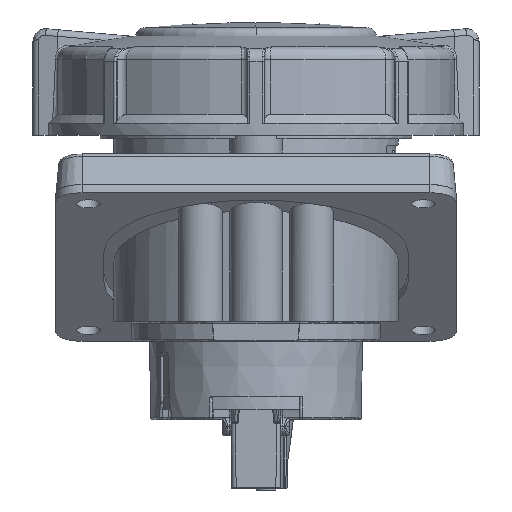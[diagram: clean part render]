
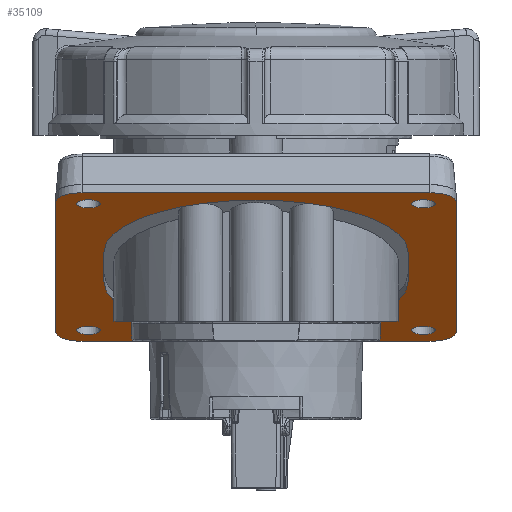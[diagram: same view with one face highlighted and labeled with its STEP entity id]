
A CAD part, front view. The second image highlights one B-rep face of the part: STEP entity #35109.
In plain terms, the highlighted planar face has unit normal (0, -0.342, -0.94).
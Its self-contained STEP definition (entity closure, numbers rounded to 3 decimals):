
#502=CARTESIAN_POINT('',(-40.,38.266,-2.556));
#503=DIRECTION('',(0.,0.342,0.94));
#504=DIRECTION('',(0.,0.94,-0.342));
#505=AXIS2_PLACEMENT_3D('',#502,#503,#504);
#507=DIRECTION('',(0.,-0.94,0.342));
#508=VECTOR('',#507,87.9);
#509=CARTESIAN_POINT('',(-46.,38.266,-2.556));
#510=LINE('7720',#509,#508);
#511=CARTESIAN_POINT('',(-40.,-44.333,27.507));
#512=DIRECTION('',(0.,0.342,0.94));
#513=DIRECTION('',(-1.,0.,0.));
#514=AXIS2_PLACEMENT_3D('',#511,#512,#513);
#516=DIRECTION('',(1.,0.,0.));
#517=VECTOR('',#516,80.);
#518=CARTESIAN_POINT('',(-40.,-49.971,29.56));
#519=LINE('7722',#518,#517);
#520=CARTESIAN_POINT('',(40.,-44.333,27.507));
#521=DIRECTION('',(0.,0.342,0.94));
#522=DIRECTION('',(0.,-0.94,0.342));
#523=AXIS2_PLACEMENT_3D('',#520,#521,#522);
#525=DIRECTION('',(0.,0.94,-0.342));
#526=VECTOR('',#525,87.9);
#527=CARTESIAN_POINT('',(46.,-44.333,27.507));
#528=LINE('7724',#527,#526);
#529=CARTESIAN_POINT('',(40.,38.266,-2.556));
#530=DIRECTION('',(0.,0.342,0.94));
#531=DIRECTION('',(1.,0.,0.));
#532=AXIS2_PLACEMENT_3D('',#529,#530,#531);
#534=DIRECTION('',(-1.,0.,0.));
#535=VECTOR('',#534,80.);
#536=CARTESIAN_POINT('',(40.,43.904,-4.608));
#537=LINE('7726',#536,#535);
#538=CARTESIAN_POINT('',(-38.5,36.904,-2.06));
#539=DIRECTION('',(0.,-0.342,-0.94));
#540=DIRECTION('',(1.,0.,0.));
#541=AXIS2_PLACEMENT_3D('',#538,#539,#540);
#543=CARTESIAN_POINT('',(-38.5,36.904,-2.06));
#544=DIRECTION('',(0.,-0.342,-0.94));
#545=DIRECTION('',(-1.,0.,0.));
#546=AXIS2_PLACEMENT_3D('',#543,#544,#545);
#548=CARTESIAN_POINT('',(38.5,36.904,-2.06));
#549=DIRECTION('',(0.,-0.342,-0.94));
#550=DIRECTION('',(1.,0.,0.));
#551=AXIS2_PLACEMENT_3D('',#548,#549,#550);
#553=CARTESIAN_POINT('',(38.5,36.904,-2.06));
#554=DIRECTION('',(0.,-0.342,-0.94));
#555=DIRECTION('',(-1.,0.,0.));
#556=AXIS2_PLACEMENT_3D('',#553,#554,#555);
#558=CARTESIAN_POINT('',(38.5,-42.97,27.012));
#559=DIRECTION('',(0.,-0.342,-0.94));
#560=DIRECTION('',(1.,0.,0.));
#561=AXIS2_PLACEMENT_3D('',#558,#559,#560);
#563=CARTESIAN_POINT('',(38.5,-42.97,27.012));
#564=DIRECTION('',(0.,-0.342,-0.94));
#565=DIRECTION('',(-1.,0.,0.));
#566=AXIS2_PLACEMENT_3D('',#563,#564,#565);
#568=CARTESIAN_POINT('',(-38.5,-42.97,27.012));
#569=DIRECTION('',(0.,-0.342,-0.94));
#570=DIRECTION('',(1.,0.,0.));
#571=AXIS2_PLACEMENT_3D('',#568,#569,#570);
#573=CARTESIAN_POINT('',(-38.5,-42.97,27.012));
#574=DIRECTION('',(0.,-0.342,-0.94));
#575=DIRECTION('',(-1.,0.,0.));
#576=AXIS2_PLACEMENT_3D('',#573,#574,#575);
#578=CARTESIAN_POINT('',(0.,6.364,9.055));
#579=DIRECTION('',(0.,-0.342,-0.94));
#580=DIRECTION('',(-1.,0.,0.));
#581=AXIS2_PLACEMENT_3D('',#578,#579,#580);
#583=DIRECTION('',(0.,-0.94,0.342));
#584=VECTOR('',#583,20.);
#585=CARTESIAN_POINT('',(35.,6.364,9.055));
#586=LINE('7728',#585,#584);
#587=CARTESIAN_POINT('',(0.,-12.43,15.896));
#588=DIRECTION('',(0.,-0.342,-0.94));
#589=DIRECTION('',(1.,0.,0.));
#590=AXIS2_PLACEMENT_3D('',#587,#588,#589);
#592=DIRECTION('',(0.,0.94,-0.342));
#593=VECTOR('',#592,20.);
#594=CARTESIAN_POINT('',(-35.,-12.43,15.896));
#595=LINE('7730',#594,#593);
#34700=CARTESIAN_POINT('',(-35.75,36.904,-2.06));
#34701=CARTESIAN_POINT('',(-41.25,36.904,-2.06));
#34702=VERTEX_POINT('',#34700);
#34703=VERTEX_POINT('',#34701);
#34704=CARTESIAN_POINT('',(41.25,36.904,-2.06));
#34705=CARTESIAN_POINT('',(35.75,36.904,-2.06));
#34706=VERTEX_POINT('',#34704);
#34707=VERTEX_POINT('',#34705);
#34708=CARTESIAN_POINT('',(41.25,-42.97,27.012));
#34709=CARTESIAN_POINT('',(35.75,-42.97,27.012));
#34710=VERTEX_POINT('',#34708);
#34711=VERTEX_POINT('',#34709);
#34712=CARTESIAN_POINT('',(-35.75,-42.97,27.012));
#34713=CARTESIAN_POINT('',(-41.25,-42.97,27.012));
#34714=VERTEX_POINT('',#34712);
#34715=VERTEX_POINT('',#34713);
#34716=CARTESIAN_POINT('',(-40.,43.904,-4.608));
#34717=CARTESIAN_POINT('',(-46.,38.266,-2.556));
#34718=VERTEX_POINT('',#34716);
#34719=VERTEX_POINT('',#34717);
#34720=CARTESIAN_POINT('',(-46.,-44.333,27.507));
#34721=VERTEX_POINT('',#34720);
#34722=CARTESIAN_POINT('',(-40.,-49.971,29.56));
#34723=VERTEX_POINT('',#34722);
#34724=CARTESIAN_POINT('',(40.,-49.971,29.56));
#34725=VERTEX_POINT('',#34724);
#34726=CARTESIAN_POINT('',(46.,-44.333,27.507));
#34727=VERTEX_POINT('',#34726);
#34728=CARTESIAN_POINT('',(46.,38.266,-2.556));
#34729=VERTEX_POINT('',#34728);
#34730=CARTESIAN_POINT('',(40.,43.904,-4.608));
#34731=VERTEX_POINT('',#34730);
#34732=CARTESIAN_POINT('',(-35.,6.364,9.055));
#34733=CARTESIAN_POINT('',(35.,6.364,9.055));
#34734=VERTEX_POINT('',#34732);
#34735=VERTEX_POINT('',#34733);
#34736=CARTESIAN_POINT('',(35.,-12.43,15.896));
#34737=VERTEX_POINT('',#34736);
#34738=CARTESIAN_POINT('',(-35.,-12.43,15.896));
#34739=VERTEX_POINT('',#34738);
#35056=CARTESIAN_POINT('',(0.,-3.033,12.476));
#35057=DIRECTION('',(0.,0.342,0.94));
#35058=DIRECTION('',(1.,0.,0.));
#35059=AXIS2_PLACEMENT_3D('',#35056,#35057,#35058);
#35060=PLANE('2273',#35059);
#35062=ORIENTED_EDGE('7719',*,*,#35061,.T.);
#35064=ORIENTED_EDGE('7720',*,*,#35063,.T.);
#35066=ORIENTED_EDGE('7721',*,*,#35065,.T.);
#35068=ORIENTED_EDGE('7722',*,*,#35067,.T.);
#35070=ORIENTED_EDGE('7723',*,*,#35069,.T.);
#35072=ORIENTED_EDGE('7724',*,*,#35071,.T.);
#35074=ORIENTED_EDGE('7725',*,*,#35073,.T.);
#35076=ORIENTED_EDGE('7726',*,*,#35075,.T.);
#35077=EDGE_LOOP('2273',(#35062,#35064,#35066,#35068,#35070,#35072,#35074,
#35076));
#35078=FACE_OUTER_BOUND('2273',#35077,.F.);
#35080=ORIENTED_EDGE('7711',*,*,#35079,.T.);
#35082=ORIENTED_EDGE('7712',*,*,#35081,.T.);
#35083=EDGE_LOOP('2273',(#35080,#35082));
#35084=FACE_BOUND('2273',#35083,.F.);
#35086=ORIENTED_EDGE('7713',*,*,#35085,.T.);
#35088=ORIENTED_EDGE('7714',*,*,#35087,.T.);
#35089=EDGE_LOOP('2273',(#35086,#35088));
#35090=FACE_BOUND('2273',#35089,.F.);
#35092=ORIENTED_EDGE('7715',*,*,#35091,.T.);
#35094=ORIENTED_EDGE('7716',*,*,#35093,.T.);
#35095=EDGE_LOOP('2273',(#35092,#35094));
#35096=FACE_BOUND('2273',#35095,.F.);
#35098=ORIENTED_EDGE('7717',*,*,#35097,.T.);
#35100=ORIENTED_EDGE('7718',*,*,#35099,.T.);
#35101=EDGE_LOOP('2273',(#35098,#35100));
#35102=FACE_BOUND('2273',#35101,.F.);
#35103=ORIENTED_EDGE('7727',*,*,#34960,.T.);
#35104=ORIENTED_EDGE('7728',*,*,#34987,.T.);
#35105=ORIENTED_EDGE('7729',*,*,#35013,.T.);
#35106=ORIENTED_EDGE('7730',*,*,#35038,.T.);
#35107=EDGE_LOOP('2273',(#35103,#35104,#35105,#35106));
#35108=FACE_BOUND('2273',#35107,.F.);
#506=CIRCLE('7719',#505,6.);
#515=CIRCLE('7721',#514,6.);
#524=CIRCLE('7723',#523,6.);
#533=CIRCLE('7725',#532,6.);
#542=CIRCLE('7711',#541,2.75);
#547=CIRCLE('7712',#546,2.75);
#552=CIRCLE('7713',#551,2.75);
#557=CIRCLE('7714',#556,2.75);
#562=CIRCLE('7715',#561,2.75);
#567=CIRCLE('7716',#566,2.75);
#572=CIRCLE('7717',#571,2.75);
#577=CIRCLE('7718',#576,2.75);
#582=CIRCLE('7727',#581,35.);
#591=CIRCLE('7729',#590,35.);
#34960=EDGE_CURVE('7727',#34734,#34735,#582,.T.);
#34987=EDGE_CURVE('7728',#34735,#34737,#586,.T.);
#35013=EDGE_CURVE('7729',#34737,#34739,#591,.T.);
#35038=EDGE_CURVE('7730',#34739,#34734,#595,.T.);
#35061=EDGE_CURVE('7719',#34718,#34719,#506,.T.);
#35063=EDGE_CURVE('7720',#34719,#34721,#510,.T.);
#35065=EDGE_CURVE('7721',#34721,#34723,#515,.T.);
#35067=EDGE_CURVE('7722',#34723,#34725,#519,.T.);
#35069=EDGE_CURVE('7723',#34725,#34727,#524,.T.);
#35071=EDGE_CURVE('7724',#34727,#34729,#528,.T.);
#35073=EDGE_CURVE('7725',#34729,#34731,#533,.T.);
#35075=EDGE_CURVE('7726',#34731,#34718,#537,.T.);
#35079=EDGE_CURVE('7711',#34702,#34703,#542,.T.);
#35081=EDGE_CURVE('7712',#34703,#34702,#547,.T.);
#35085=EDGE_CURVE('7713',#34706,#34707,#552,.T.);
#35087=EDGE_CURVE('7714',#34707,#34706,#557,.T.);
#35091=EDGE_CURVE('7715',#34710,#34711,#562,.T.);
#35093=EDGE_CURVE('7716',#34711,#34710,#567,.T.);
#35097=EDGE_CURVE('7717',#34714,#34715,#572,.T.);
#35099=EDGE_CURVE('7718',#34715,#34714,#577,.T.);
#35109=ADVANCED_FACE('2273',(#35078,#35084,#35090,#35096,#35102,#35108),#35060,
.F.);
